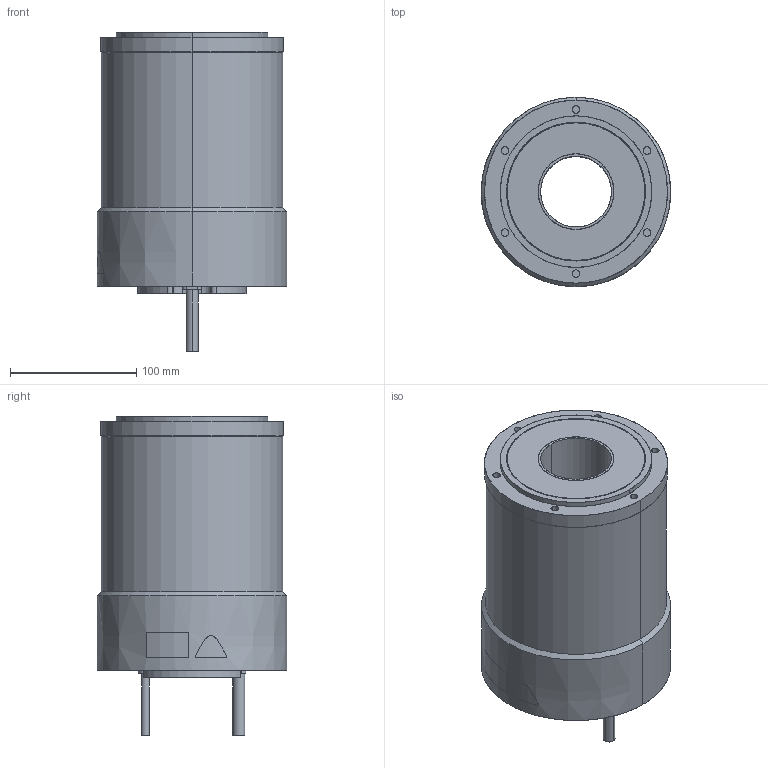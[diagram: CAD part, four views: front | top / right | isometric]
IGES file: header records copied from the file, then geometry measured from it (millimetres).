
Start section: SolidWorks IGES file using analytic representation for surfaces
Bounding box: 150.06 x 150 x 253 mm (x, y, z)
Surface area: 169472.7 mm2 (no closed solid volume)
Topology: 0 solids, 0 shells, 170 faces, 3730 edges, 3730 vertices
Faces by surface type: revolution 109, bspline 61
